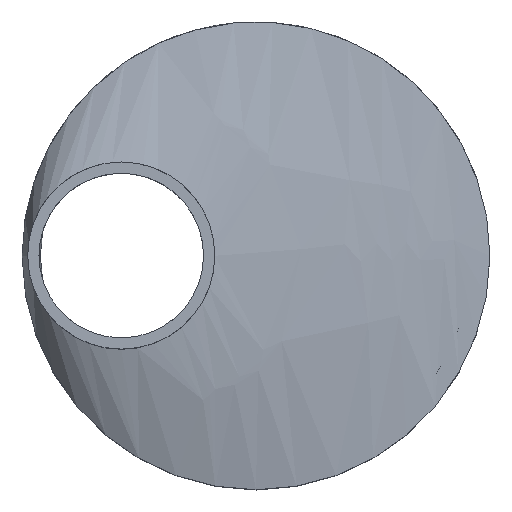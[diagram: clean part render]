
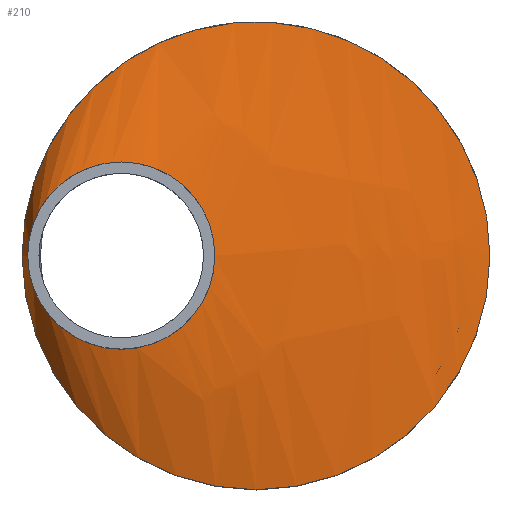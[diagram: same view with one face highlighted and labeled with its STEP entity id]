
A CAD part, top view. The second image highlights one B-rep face of the part: STEP entity #210.
In plain terms, the highlighted free-form (B-spline) face has degree [1, 2] with [2, 9] control points.
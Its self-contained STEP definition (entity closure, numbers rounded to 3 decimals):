
#15=B_SPLINE_CURVE_WITH_KNOTS($,1,(#401,#402),.UNSPECIFIED.,.F.,.F.,(2,
2),(-0.657,0.),.UNSPECIFIED.);
#17=(
BOUNDED_SURFACE()
B_SPLINE_SURFACE(1,2,((#379,#380,#381,#382,#383,#384,#385,#386,#387),(#388,
#389,#390,#391,#392,#393,#394,#395,#396)),.UNSPECIFIED.,.F.,.T.,.F.)
B_SPLINE_SURFACE_WITH_KNOTS((2,2),(3,2,2,2,3),(-4.423,0.855),
(-3.142,-1.571,0.,1.571,3.142),
 .UNSPECIFIED.)
GEOMETRIC_REPRESENTATION_ITEM()
RATIONAL_B_SPLINE_SURFACE(((1.,0.707,1.,0.707,1.,
0.707,1.,0.707,1.),(1.,0.707,1.,0.707,
1.,0.707,1.,0.707,1.)))
REPRESENTATION_ITEM($)
SURFACE()
);
#47=FACE_OUTER_BOUND($,#67,.T.);
#67=EDGE_LOOP($,(#167,#168,#169,#170,#171,#172));
#83=CIRCLE($,#231,62.5);
#84=CIRCLE($,#232,62.5);
#93=CIRCLE($,#243,25.);
#94=CIRCLE($,#244,25.);
#103=VERTEX_POINT($,#337);
#104=VERTEX_POINT($,#338);
#113=VERTEX_POINT($,#397);
#114=VERTEX_POINT($,#398);
#123=EDGE_CURVE($,#103,#104,#83,.T.);
#124=EDGE_CURVE($,#104,#103,#84,.T.);
#134=EDGE_CURVE($,#113,#114,#93,.T.);
#135=EDGE_CURVE($,#114,#113,#94,.T.);
#136=EDGE_CURVE($,#114,#104,#15,.T.);
#167=ORIENTED_EDGE($,*,*,#134,.F.);
#168=ORIENTED_EDGE($,*,*,#135,.F.);
#169=ORIENTED_EDGE($,*,*,#136,.T.);
#170=ORIENTED_EDGE($,*,*,#123,.F.);
#171=ORIENTED_EDGE($,*,*,#124,.F.);
#172=ORIENTED_EDGE($,*,*,#136,.F.);
#210=ADVANCED_FACE($,(#47),#17,.F.);
#231=AXIS2_PLACEMENT_3D($,#339,#278,#279);
#232=AXIS2_PLACEMENT_3D($,#340,#280,#281);
#243=AXIS2_PLACEMENT_3D($,#399,#302,#303);
#244=AXIS2_PLACEMENT_3D($,#400,#304,#305);
#278=DIRECTION('center_axis',(0.,0.,-1.));
#279=DIRECTION('ref_axis',(-1.,0.,0.));
#280=DIRECTION('center_axis',(0.,0.,-1.));
#281=DIRECTION('ref_axis',(-1.,0.,0.));
#302=DIRECTION('center_axis',(0.,0.,1.));
#303=DIRECTION('ref_axis',(-1.,0.,0.));
#304=DIRECTION('center_axis',(0.,0.,1.));
#305=DIRECTION('ref_axis',(-1.,0.,0.));
#337=CARTESIAN_POINT('',(62.5,0.,37.));
#338=CARTESIAN_POINT('',(-50.103,37.362,37.));
#339=CARTESIAN_POINT('Origin',(0.,0.,37.));
#340=CARTESIAN_POINT('Origin',(0.,0.,37.));
#379=CARTESIAN_POINT('Ctrl Pts',(-10.104,188.367,-16.89));
#380=CARTESIAN_POINT('Ctrl Pts',(-82.709,188.367,-70.78));
#381=CARTESIAN_POINT('Ctrl Pts',(-82.709,0.,
-70.78));
#382=CARTESIAN_POINT('Ctrl Pts',(-82.709,-188.367,-70.78));
#383=CARTESIAN_POINT('Ctrl Pts',(-10.104,-188.367,-16.89));
#384=CARTESIAN_POINT('Ctrl Pts',(62.5,-188.367,37.));
#385=CARTESIAN_POINT('Ctrl Pts',(62.5,0.,37.));
#386=CARTESIAN_POINT('Ctrl Pts',(62.5,188.367,37.));
#387=CARTESIAN_POINT('Ctrl Pts',(-10.104,188.367,-16.89));
#388=CARTESIAN_POINT('Ctrl Pts',(-57.836,8.168,47.419));
#389=CARTESIAN_POINT('Ctrl Pts',(-60.985,8.168,45.082));
#390=CARTESIAN_POINT('Ctrl Pts',(-60.985,0.,45.082));
#391=CARTESIAN_POINT('Ctrl Pts',(-60.985,-8.168,45.082));
#392=CARTESIAN_POINT('Ctrl Pts',(-57.836,-8.168,47.419));
#393=CARTESIAN_POINT('Ctrl Pts',(-54.688,-8.168,49.755));
#394=CARTESIAN_POINT('Ctrl Pts',(-54.688,0.,49.755));
#395=CARTESIAN_POINT('Ctrl Pts',(-54.688,8.168,49.755));
#396=CARTESIAN_POINT('Ctrl Pts',(-57.836,8.168,47.419));
#397=CARTESIAN_POINT('',(-11.,0.,45.));
#398=CARTESIAN_POINT('',(-56.041,14.945,45.));
#399=CARTESIAN_POINT('Origin',(-36.,0.,45.));
#400=CARTESIAN_POINT('Origin',(-36.,0.,45.));
#401=CARTESIAN_POINT('Ctrl Pts',(-56.041,14.945,45.));
#402=CARTESIAN_POINT('Ctrl Pts',(-50.103,37.362,37.));
